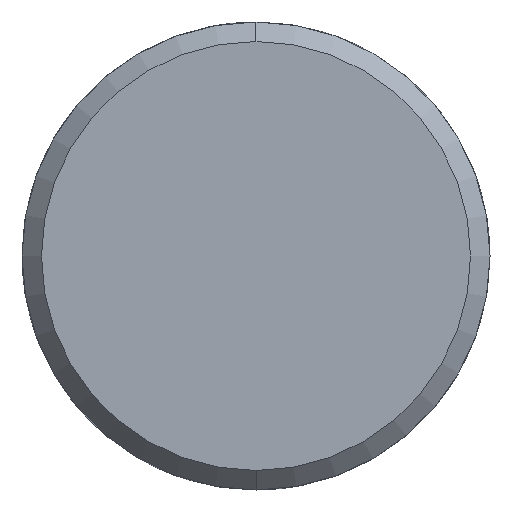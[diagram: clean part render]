
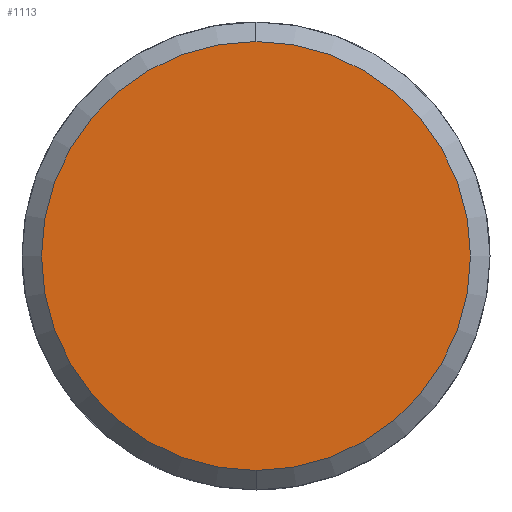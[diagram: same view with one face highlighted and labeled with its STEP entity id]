
A CAD part, left-side view. The second image highlights one B-rep face of the part: STEP entity #1113.
In plain terms, the highlighted planar face has unit normal (-1, 0, 0).
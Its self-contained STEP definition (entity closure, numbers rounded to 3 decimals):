
#1045=CARTESIAN_POINT('Vertex',(-5.,0.,-11.)) ;
#1048=CARTESIAN_POINT('Axis2P3D Location',(-5.,0.,0.)) ;
#1052=CARTESIAN_POINT('Vertex',(-5.,11.,0.)) ;
#1055=CARTESIAN_POINT('Axis2P3D Location',(-5.,0.,0.)) ;
#1059=CARTESIAN_POINT('Vertex',(-5.,0.,11.)) ;
#1081=CARTESIAN_POINT('Axis2P3D Location',(-5.,0.,0.)) ;
#1085=CARTESIAN_POINT('Vertex',(-5.,-11.,0.)) ;
#1088=CARTESIAN_POINT('Axis2P3D Location',(-5.,0.,0.)) ;
#1102=CARTESIAN_POINT('Axis2P3D Location',(-5.,0.,0.)) ;
#1049=DIRECTION('Axis2P3D Direction',(1.,0.,-0.)) ;
#1056=DIRECTION('Axis2P3D Direction',(1.,0.,-0.)) ;
#1082=DIRECTION('Axis2P3D Direction',(1.,0.,-0.)) ;
#1089=DIRECTION('Axis2P3D Direction',(1.,0.,-0.)) ;
#1103=DIRECTION('Axis2P3D Direction',(1.,0.,-0.)) ;
#1104=DIRECTION('Axis2P3D XDirection',(-0.,0.,-1.)) ;
#1050=AXIS2_PLACEMENT_3D('Circle Axis2P3D',#1048,#1049,$) ;
#1057=AXIS2_PLACEMENT_3D('Circle Axis2P3D',#1055,#1056,$) ;
#1083=AXIS2_PLACEMENT_3D('Circle Axis2P3D',#1081,#1082,$) ;
#1090=AXIS2_PLACEMENT_3D('Circle Axis2P3D',#1088,#1089,$) ;
#1105=AXIS2_PLACEMENT_3D('Plane Axis2P3D',#1102,#1103,#1104) ;
#1108=ORIENTED_EDGE('',*,*,#1054,.F.) ;
#1109=ORIENTED_EDGE('',*,*,#1092,.F.) ;
#1110=ORIENTED_EDGE('',*,*,#1087,.F.) ;
#1111=ORIENTED_EDGE('',*,*,#1061,.F.) ;
#1113=ADVANCED_FACE('351-14X26X60',(#1112),#1106,.F.) ;
#1051=CIRCLE('generated circle',#1050,11.) ;
#1058=CIRCLE('generated circle',#1057,11.) ;
#1084=CIRCLE('generated circle',#1083,11.) ;
#1091=CIRCLE('generated circle',#1090,11.) ;
#1054=EDGE_CURVE('',#1046,#1053,#1051,.T.) ;
#1061=EDGE_CURVE('',#1053,#1060,#1058,.T.) ;
#1087=EDGE_CURVE('',#1060,#1086,#1084,.T.) ;
#1092=EDGE_CURVE('',#1086,#1046,#1091,.T.) ;
#1107=EDGE_LOOP('',(#1108,#1109,#1110,#1111)) ;
#1112=FACE_OUTER_BOUND('',#1107,.T.) ;
#1106=PLANE('Plane',#1105) ;
#1046=VERTEX_POINT('',#1045) ;
#1053=VERTEX_POINT('',#1052) ;
#1060=VERTEX_POINT('',#1059) ;
#1086=VERTEX_POINT('',#1085) ;
